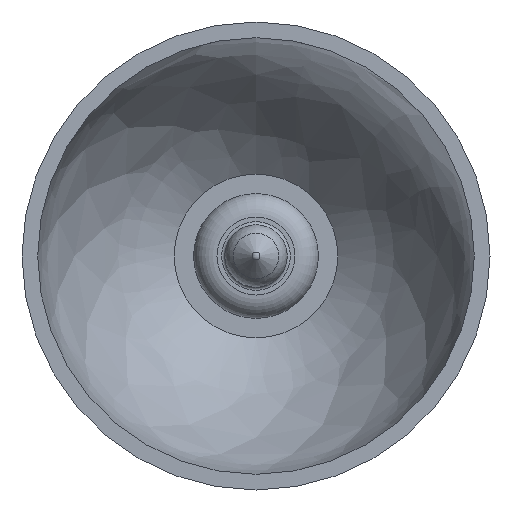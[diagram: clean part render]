
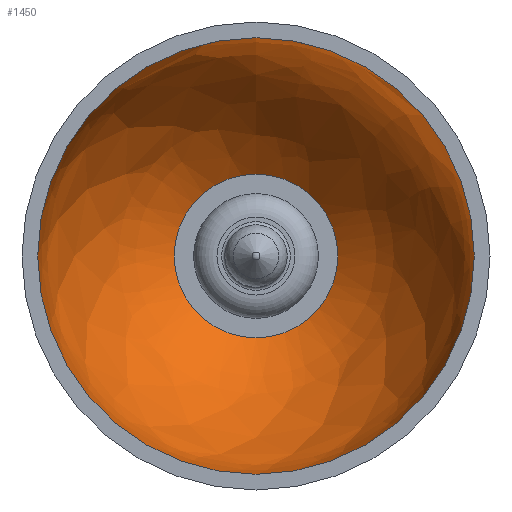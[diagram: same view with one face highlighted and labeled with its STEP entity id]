
A CAD part, front view. The second image highlights one B-rep face of the part: STEP entity #1450.
In plain terms, the highlighted free-form (B-spline) face has degree [2, 2] with [3, 9] control points.
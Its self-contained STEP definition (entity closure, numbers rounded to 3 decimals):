
#359=FACE_OUTER_BOUND('',#450,.T.);
#450=EDGE_LOOP('',(#1037,#1038,#1039,#1040,#1041,#1042));
#560=CIRCLE('',#1653,13.993);
#561=CIRCLE('',#1654,21.483);
#562=CIRCLE('',#1655,5.244);
#563=CIRCLE('',#1656,5.244);
#564=CIRCLE('',#1657,13.993);
#685=VERTEX_POINT('',#2465);
#686=VERTEX_POINT('',#2466);
#687=VERTEX_POINT('',#2468);
#688=VERTEX_POINT('',#2470);
#831=EDGE_CURVE('',#685,#686,#560,.T.);
#832=EDGE_CURVE('',#686,#687,#561,.T.);
#833=EDGE_CURVE('',#688,#687,#562,.T.);
#834=EDGE_CURVE('',#687,#688,#563,.T.);
#835=EDGE_CURVE('',#686,#685,#564,.T.);
#1037=ORIENTED_EDGE('',*,*,#831,.T.);
#1038=ORIENTED_EDGE('',*,*,#832,.T.);
#1039=ORIENTED_EDGE('',*,*,#833,.F.);
#1040=ORIENTED_EDGE('',*,*,#834,.F.);
#1041=ORIENTED_EDGE('',*,*,#832,.F.);
#1042=ORIENTED_EDGE('',*,*,#835,.T.);
#1449=(
BOUNDED_SURFACE()
B_SPLINE_SURFACE(2,2,((#2438,#2439,#2440,#2441,#2442,#2443,#2444,#2445,
#2446),(#2447,#2448,#2449,#2450,#2451,#2452,#2453,#2454,#2455),(#2456,#2457,
#2458,#2459,#2460,#2461,#2462,#2463,#2464)),.UNSPECIFIED.,.F.,.T.,.F.)
B_SPLINE_SURFACE_WITH_KNOTS((3,3),(3,2,2,2,3),(-0.936,-0.012),
(-3.142,-1.571,0.,1.571,3.142),
 .UNSPECIFIED.)
GEOMETRIC_REPRESENTATION_ITEM()
RATIONAL_B_SPLINE_SURFACE(((1.,0.707,1.,0.707,1.,
0.707,1.,0.707,1.),(0.895,0.633,
0.895,0.633,0.895,0.633,0.895,
0.633,0.895),(1.,0.707,1.,0.707,
1.,0.707,1.,0.707,1.)))
REPRESENTATION_ITEM('')
SURFACE()
);
#1450=ADVANCED_FACE('',(#359),#1449,.T.);
#1653=AXIS2_PLACEMENT_3D('',#2467,#1891,#1892);
#1654=AXIS2_PLACEMENT_3D('',#2469,#1893,#1894);
#1655=AXIS2_PLACEMENT_3D('',#2471,#1895,#1896);
#1656=AXIS2_PLACEMENT_3D('',#2472,#1897,#1898);
#1657=AXIS2_PLACEMENT_3D('',#2473,#1899,#1900);
#1891=DIRECTION('center_axis',(0.,-1.,0.));
#1892=DIRECTION('ref_axis',(1.,0.,0.));
#1893=DIRECTION('center_axis',(-1.,0.,0.));
#1894=DIRECTION('ref_axis',(0.,0.,
1.));
#1895=DIRECTION('center_axis',(0.,-1.,0.));
#1896=DIRECTION('ref_axis',(1.,0.,0.));
#1897=DIRECTION('center_axis',(0.,-1.,0.));
#1898=DIRECTION('ref_axis',(1.,0.,0.));
#1899=DIRECTION('center_axis',(0.,-1.,0.));
#1900=DIRECTION('ref_axis',(1.,0.,0.));
#2438=CARTESIAN_POINT('Ctrl Pts',(0.,17.051,5.244));
#2439=CARTESIAN_POINT('Ctrl Pts',(-5.244,17.051,5.244));
#2440=CARTESIAN_POINT('Ctrl Pts',(-5.244,17.051,0.));
#2441=CARTESIAN_POINT('Ctrl Pts',(-5.244,17.051,-5.244));
#2442=CARTESIAN_POINT('Ctrl Pts',(0.,17.051,-5.244));
#2443=CARTESIAN_POINT('Ctrl Pts',(5.244,17.051,-5.244));
#2444=CARTESIAN_POINT('Ctrl Pts',(5.244,17.051,0.));
#2445=CARTESIAN_POINT('Ctrl Pts',(5.244,17.051,5.244));
#2446=CARTESIAN_POINT('Ctrl Pts',(0.,17.051,5.244));
#2447=CARTESIAN_POINT('Ctrl Pts',(0.,10.705,13.867));
#2448=CARTESIAN_POINT('Ctrl Pts',(-13.867,10.705,13.867));
#2449=CARTESIAN_POINT('Ctrl Pts',(-13.867,10.705,0.));
#2450=CARTESIAN_POINT('Ctrl Pts',(-13.867,10.705,-13.867));
#2451=CARTESIAN_POINT('Ctrl Pts',(0.,10.705,-13.867));
#2452=CARTESIAN_POINT('Ctrl Pts',(13.867,10.705,-13.867));
#2453=CARTESIAN_POINT('Ctrl Pts',(13.867,10.705,0.));
#2454=CARTESIAN_POINT('Ctrl Pts',(13.867,10.705,13.867));
#2455=CARTESIAN_POINT('Ctrl Pts',(0.,10.705,13.867));
#2456=CARTESIAN_POINT('Ctrl Pts',(0.,0.,13.993));
#2457=CARTESIAN_POINT('Ctrl Pts',(-13.993,0.,
13.993));
#2458=CARTESIAN_POINT('Ctrl Pts',(-13.993,0.,
0.));
#2459=CARTESIAN_POINT('Ctrl Pts',(-13.993,0.,
-13.993));
#2460=CARTESIAN_POINT('Ctrl Pts',(0.,0.,-13.993));
#2461=CARTESIAN_POINT('Ctrl Pts',(13.993,0.,
-13.993));
#2462=CARTESIAN_POINT('Ctrl Pts',(13.993,0.,
0.));
#2463=CARTESIAN_POINT('Ctrl Pts',(13.993,0.,
13.993));
#2464=CARTESIAN_POINT('Ctrl Pts',(0.,0.,13.993));
#2465=CARTESIAN_POINT('',(0.,0.,-13.993));
#2466=CARTESIAN_POINT('',(0.,0.,13.993));
#2467=CARTESIAN_POINT('Origin',(0.,0.,0.));
#2468=CARTESIAN_POINT('',(0.,17.051,5.244));
#2469=CARTESIAN_POINT('Origin',(0.,-0.252,
-7.489));
#2470=CARTESIAN_POINT('',(0.,17.051,-5.244));
#2471=CARTESIAN_POINT('Origin',(0.,17.051,0.));
#2472=CARTESIAN_POINT('Origin',(0.,17.051,0.));
#2473=CARTESIAN_POINT('Origin',(0.,0.,0.));
